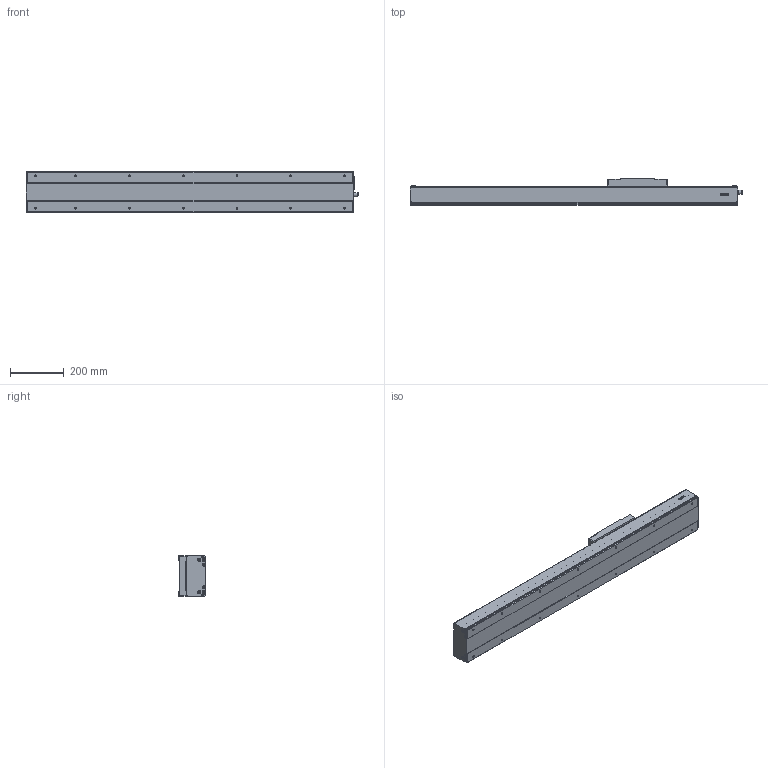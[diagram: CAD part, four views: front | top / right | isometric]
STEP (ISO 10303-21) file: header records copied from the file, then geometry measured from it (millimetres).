
FILE_DESCRIPTION(/* description */ (''),/* implementation_level */ '2;1');
FILE_NAME(/* name */ 'D:\混合母檔20191031\混和母檔\混和母檔\bin\Debug\Download\3D\KS150-20C-700AFI\KS150-20C-700AFI.stp',/* time_stamp */ '2019-11-04T16:01:38+08:00',/* author */ ('user'),/* organization */ (''),/* preprocessor_version */ 'ST-DEVELOPER v16.13',/* originating_system */ 'Autodesk Inventor 2018',/* authorisation */ '');
FILE_SCHEMA (('AUTOMOTIVE_DESIGN { 1 0 10303 214 3 1 1 }'));
Length unit declared in the file: millimetre
Products named in the file (3): KS150-20C-700AFI; KS150-FI; KS150-SL
Assembly tree (2 placements, depth 2):
  KS150-20C-700AFI
    KS150-FI
    KS150-SL
Bounding box: 1235.05 x 100 x 152.4 mm (x, y, z)
Volume: 5185808 mm3; surface area: 1232654.5 mm2
Topology: 4 solids, 8 shells, 1241 faces, 3275 edges, 2124 vertices
Faces by surface type: plane 615, cone 228, cylinder 190, bspline 136, torus 68, sphere 4
Full cylindrical faces by diameter (mm): 3.242 x12, 3.571 x8, 4.134 x4, 4.5 x8, 4.509 x6, 4.917 x4, 5 x18, 5.5 x12, 6 x2, 6.647 x18, 8 x4, 8.4 x8, 9.3 x12, 10.437 x1, 12 x1, 14 x1, 15 x1, 15.538 x1, 23 x1, 46 x1, 50 x1
Entity records: 40968 total; most frequent: CARTESIAN_POINT 12720, ORIENTED_EDGE 5840, DIRECTION 5425, EDGE_CURVE 2920, VERTEX_POINT 2016, AXIS2_PLACEMENT_3D 1880, LINE 1665, VECTOR 1665
